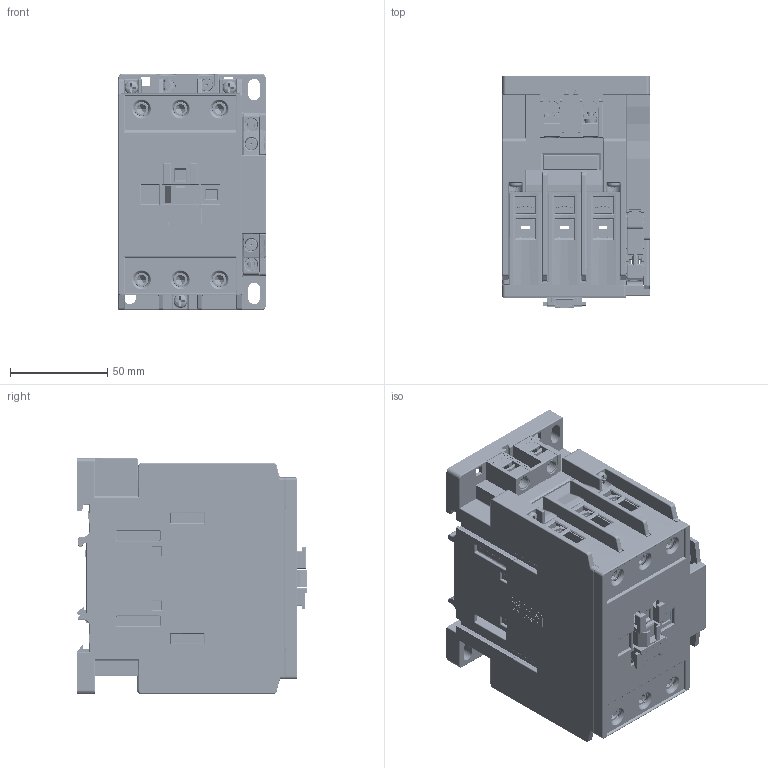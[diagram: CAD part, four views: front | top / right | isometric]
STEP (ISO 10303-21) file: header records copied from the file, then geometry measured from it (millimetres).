
FILE_DESCRIPTION((''),'2;1');
FILE_NAME('NC8-40-65','2024-03-18T16:43:08',('hhpo'),(''),'CREO PARAMETRIC BY PTC INC, 2020044','CREO PARAMETRIC BY PTC INC, 2020044','');
FILE_SCHEMA(('CONFIG_CONTROL_DESIGN','SHAPE_APPEARANCE_LAYERS_GROUPS'));
Products named in the file (1): NC8-40-65
Bounding box: 76.4 x 118.9 x 121.5 mm (x, y, z)
Volume: 298035.1 mm3; surface area: 278692 mm2
Topology: 5 solids, 5 shells, 14168 faces, 38060 edges, 23823 vertices
Faces by surface type: plane 7922, cylinder 4447, torus 886, sphere 531, bspline 256, cone 126
Entity records: 598613 total; most frequent: CARTESIAN_POINT 115367, ORIENTED_EDGE 76046, DIRECTION 72493, EDGE_CURVE 38023, VECTOR 27265, LINE 27265, VERTEX_POINT 23815, AXIS2_PLACEMENT_3D 22614
